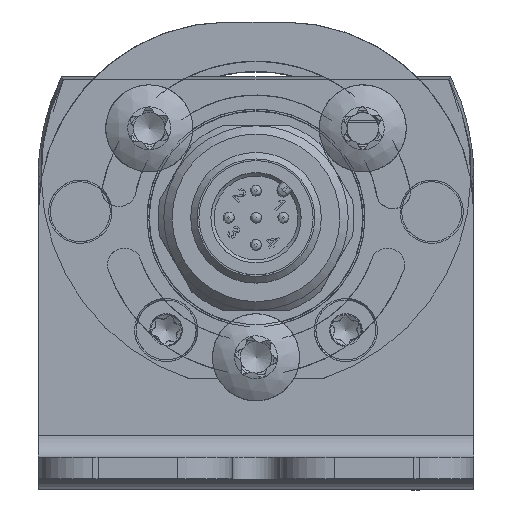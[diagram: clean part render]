
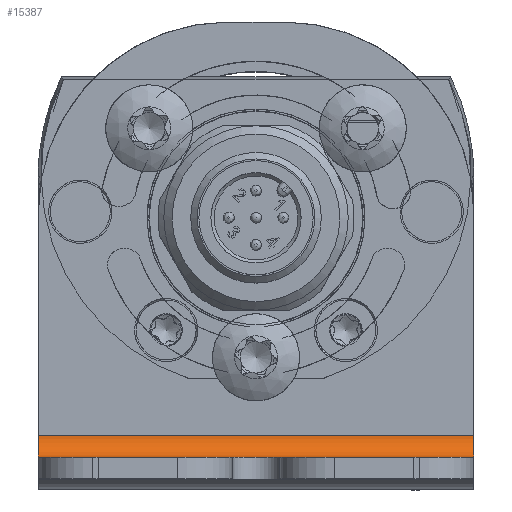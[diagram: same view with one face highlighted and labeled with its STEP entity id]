
A CAD part, top view. The second image highlights one B-rep face of the part: STEP entity #15387.
In plain terms, the highlighted cylindrical face has radius 2 mm (diameter 4 mm), a partial arc.
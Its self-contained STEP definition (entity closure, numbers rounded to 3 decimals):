
#856=CYLINDRICAL_SURFACE('',#17202,2.);
#2604=CIRCLE('',#17203,2.);
#2605=CIRCLE('',#17204,2.);
#3452=FACE_OUTER_BOUND('',#4319,.T.);
#4319=EDGE_LOOP('',(#14035,#14036,#14037,#14038));
#5046=LINE('',#27734,#5881);
#5132=LINE('',#29736,#5967);
#5881=VECTOR('',#20765,10.);
#5967=VECTOR('',#21539,10.);
#7167=VERTEX_POINT('',#27731);
#7168=VERTEX_POINT('',#27733);
#7409=VERTEX_POINT('',#29734);
#7410=VERTEX_POINT('',#29735);
#9232=EDGE_CURVE('',#7167,#7168,#5046,.T.);
#9642=EDGE_CURVE('',#7409,#7410,#5132,.T.);
#9643=EDGE_CURVE('',#7409,#7168,#2604,.T.);
#9644=EDGE_CURVE('',#7410,#7167,#2605,.T.);
#14035=ORIENTED_EDGE('',*,*,#9642,.F.);
#14036=ORIENTED_EDGE('',*,*,#9643,.T.);
#14037=ORIENTED_EDGE('',*,*,#9232,.F.);
#14038=ORIENTED_EDGE('',*,*,#9644,.F.);
#15387=ADVANCED_FACE('',(#3452),#856,.F.);
#17202=AXIS2_PLACEMENT_3D('',#29733,#21537,#21538);
#17203=AXIS2_PLACEMENT_3D('',#29737,#21540,#21541);
#17204=AXIS2_PLACEMENT_3D('',#29738,#21542,#21543);
#20765=DIRECTION('',(1.,0.,0.));
#21537=DIRECTION('center_axis',(-1.,0.,0.));
#21538=DIRECTION('ref_axis',(0.,0.,
-1.));
#21539=DIRECTION('',(-1.,0.,0.));
#21540=DIRECTION('center_axis',(1.,0.,0.));
#21541=DIRECTION('ref_axis',(0.,-1.,0.));
#21542=DIRECTION('center_axis',(1.,0.,0.));
#21543=DIRECTION('ref_axis',(0.,-1.,0.));
#27731=CARTESIAN_POINT('',(-19.998,-24.,527.));
#27733=CARTESIAN_POINT('',(20.002,-24.,527.));
#27734=CARTESIAN_POINT('',(-19.998,-24.,527.));
#29733=CARTESIAN_POINT('Origin',(0.002,-24.,529.));
#29734=CARTESIAN_POINT('',(20.002,-26.,529.));
#29735=CARTESIAN_POINT('',(-19.998,-26.,529.));
#29736=CARTESIAN_POINT('',(0.002,-26.,529.));
#29737=CARTESIAN_POINT('Origin',(20.002,-24.,529.));
#29738=CARTESIAN_POINT('Origin',(-19.998,-24.,529.));
